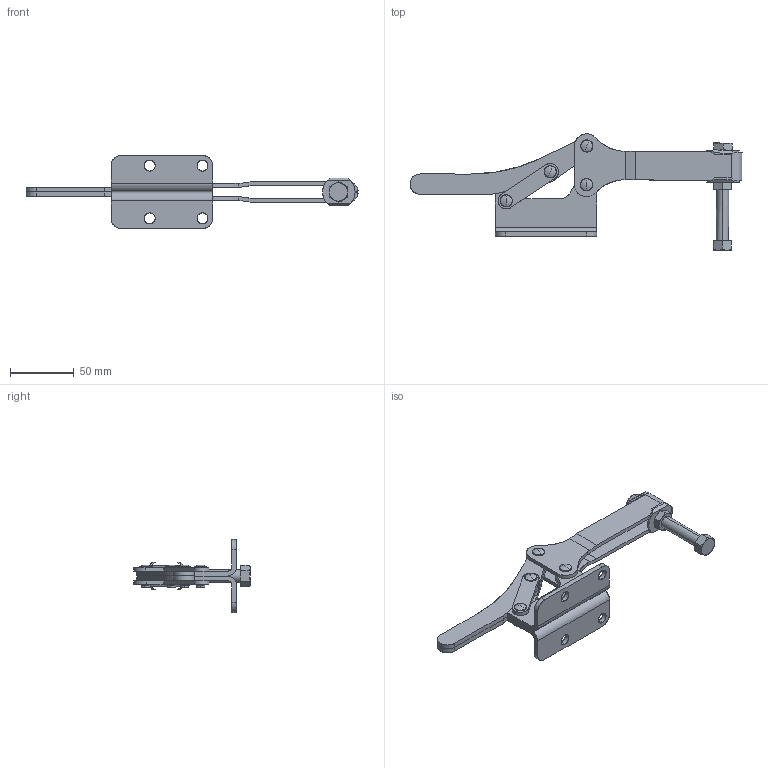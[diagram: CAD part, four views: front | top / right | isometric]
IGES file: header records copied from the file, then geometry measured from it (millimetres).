
Start section: SolidWorks IGES file using analytic representation for surfaces
Global section: file name: C:\lapeer-mfg\600\H-600\iges\H-601sw.IGS; native system: SolidWorks 2005 by SolidWorks Corporation; preprocessor: SolidWorks 2005 by SolidWorks Corporation; author: rtaylor; date: 050329.181015; units: inch
Bounding box: 259.47 x 90.96 x 57.15 mm (x, y, z)
Surface area: 60253.6 mm2 (no closed solid volume)
Topology: 0 solids, 0 shells, 325 faces, 4986 edges, 4970 vertices
Faces by surface type: revolution 182, bspline 143
